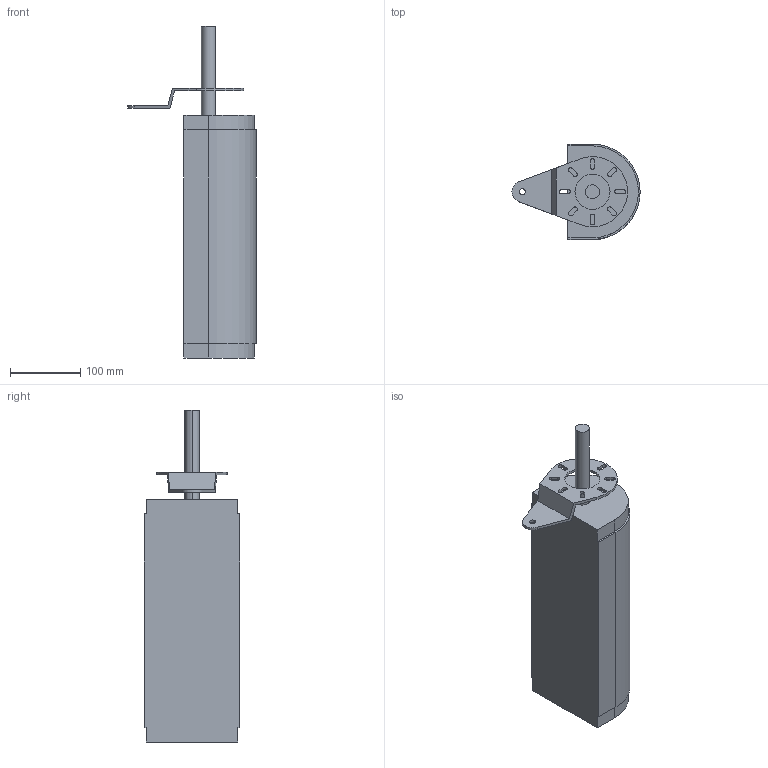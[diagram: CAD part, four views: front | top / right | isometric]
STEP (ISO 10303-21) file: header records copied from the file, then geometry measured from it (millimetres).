
FILE_DESCRIPTION (( 'STEP AP214' ), '1' );
FILE_NAME ('FS-MTC-150 350 rechts ra.STEP', '2017-12-21T09:27:34', ( '' ), ( '' ), 'SwSTEP 2.0', 'SolidWorks 2017', '' );
FILE_SCHEMA (( 'AUTOMOTIVE_DESIGN' ));
Length unit declared in the file: millimetre
Products named in the file (1): FS-MTC-150 350 rechts ra
Bounding box: 183 x 136 x 473.5 mm (x, y, z)
Volume: 4210248.6 mm3; surface area: 199963.9 mm2
Topology: 2 solids, 2 shells, 70 faces, 195 edges, 130 vertices
Faces by surface type: plane 36, cylinder 34
Entity records: 2350 total; most frequent: DIRECTION 405, CARTESIAN_POINT 396, ORIENTED_EDGE 390, EDGE_CURVE 195, AXIS2_PLACEMENT_3D 139, VERTEX_POINT 130, LINE 127, VECTOR 127
